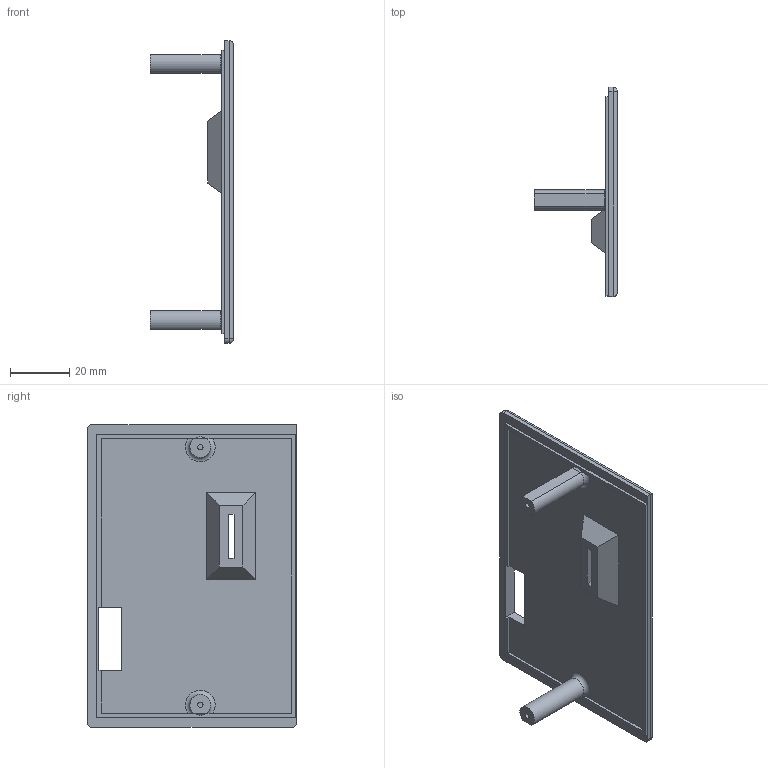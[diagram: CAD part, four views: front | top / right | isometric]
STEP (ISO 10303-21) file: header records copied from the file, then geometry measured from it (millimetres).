
FILE_DESCRIPTION(/* description */ (''),/* implementation_level */ '2;1');
FILE_NAME(/* name */ 'Lumi_TVtop.step',/* time_stamp */ '2025-06-14T15:37:34+05:30',/* author */ (''),/* organization */ (''),/* preprocessor_version */ 'ST-DEVELOPER v20.1',/* originating_system */ 'Autodesk Translation Framework v14.10.0.0',/* authorisation */ '');
FILE_SCHEMA (('AUTOMOTIVE_DESIGN { 1 0 10303 214 3 1 1 }'));
Length unit declared in the file: millimetre
Products named in the file (2): TVHead; 3DPrintedBody
Assembly tree (1 placements, depth 2):
  TVHead
    3DPrintedBody
Bounding box: 28 x 70.47 x 102 mm (x, y, z)
Volume: 23217.9 mm3; surface area: 17301.3 mm2
Topology: 1 solids, 1 shells, 58 faces, 142 edges, 90 vertices
Faces by surface type: plane 38, cylinder 15, sphere 3, torus 2
Full cylindrical faces by diameter (mm): 1.8 x2
Entity records: 1802 total; most frequent: CARTESIAN_POINT 359, ORIENTED_EDGE 284, DIRECTION 283, EDGE_CURVE 142, LINE 103, VECTOR 103, VERTEX_POINT 90, AXIS2_PLACEMENT_3D 90
